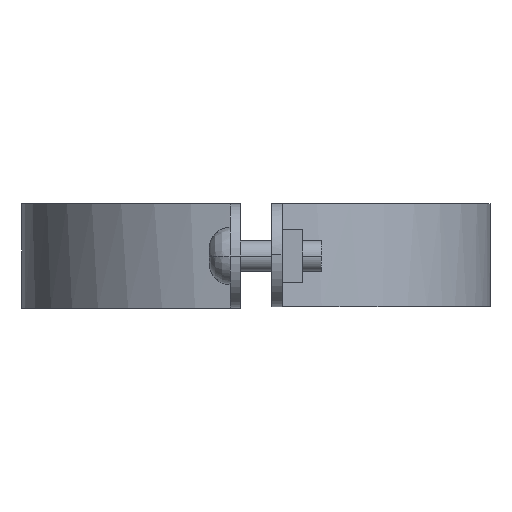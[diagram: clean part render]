
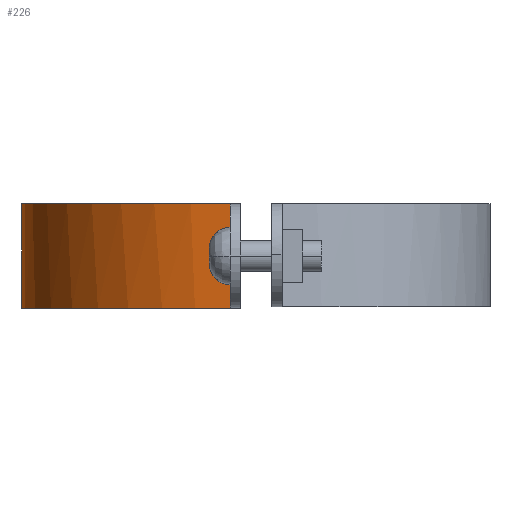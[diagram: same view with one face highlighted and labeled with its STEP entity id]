
A CAD part, left-side view. The second image highlights one B-rep face of the part: STEP entity #226.
In plain terms, the highlighted free-form (B-spline) face has degree [3, 1] with [4, 2] control points.
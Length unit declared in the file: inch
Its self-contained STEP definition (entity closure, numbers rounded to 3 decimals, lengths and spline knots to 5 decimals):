
#226=ADVANCED_FACE('',(#474),#475,.T.);
#474=FACE_OUTER_BOUND('',#1053,.T.);
#475=B_SPLINE_SURFACE_WITH_KNOTS('',3,1,((#1054,#1055),(#1056,#1057),(#1058,#1059),(#1060,#1061)),.UNSPECIFIED.,.F.,.F.,.F.,(4,4),(2,2),(0.0,1.0),(0.0,1.25),.UNSPECIFIED.);
#1053=EDGE_LOOP('',(#1646,#1647,#1648,#1649));
#1054=CARTESIAN_POINT('',(2.84537,5.5907,0.0));
#1055=CARTESIAN_POINT('',(2.84537,5.5907,1.25));
#1056=CARTESIAN_POINT('',(1.41417,5.5907,0.0));
#1057=CARTESIAN_POINT('',(1.41417,5.5907,1.25));
#1058=CARTESIAN_POINT('',(0.21159,4.5151,0.0));
#1059=CARTESIAN_POINT('',(0.21159,4.5151,1.25));
#1060=CARTESIAN_POINT('',(0.05258,3.09273,0.0));
#1061=CARTESIAN_POINT('',(0.05258,3.09273,1.25));
#1646=ORIENTED_EDGE('',*,*,#2138,.T.);
#1647=ORIENTED_EDGE('',*,*,#2172,.T.);
#1648=ORIENTED_EDGE('',*,*,#2173,.T.);
#1649=ORIENTED_EDGE('',*,*,#2174,.F.);
#2138=EDGE_CURVE('',#2460,#2469,#2471,.T.);
#2172=EDGE_CURVE('',#2469,#2518,#2519,.T.);
#2173=EDGE_CURVE('',#2518,#2520,#2521,.T.);
#2174=EDGE_CURVE('',#2460,#2520,#2522,.T.);
#2460=VERTEX_POINT('',#2999);
#2469=VERTEX_POINT('',#3015);
#2471=B_SPLINE_CURVE_WITH_KNOTS('',3,(#3018,#3019,#3020,#3021),.UNSPECIFIED.,.F.,.F.,(4,4),(0.0,1.0),.UNSPECIFIED.);
#2518=VERTEX_POINT('',#3129);
#2519=LINE('',#3130,#3131);
#2520=VERTEX_POINT('',#3132);
#2521=B_SPLINE_CURVE_WITH_KNOTS('',3,(#3133,#3134,#3135,#3136),.UNSPECIFIED.,.F.,.F.,(4,4),(-1.0,-0.0),.UNSPECIFIED.);
#2522=LINE('',#3137,#3138);
#2999=CARTESIAN_POINT('',(2.84537,5.5907,0.00011));
#3015=CARTESIAN_POINT('',(0.05258,3.09273,0.00011));
#3018=CARTESIAN_POINT('',(2.84537,5.5907,0.00011));
#3019=CARTESIAN_POINT('',(1.41417,5.5907,0.00011));
#3020=CARTESIAN_POINT('',(0.21159,4.5151,0.00011));
#3021=CARTESIAN_POINT('',(0.05258,3.09273,0.00011));
#3129=CARTESIAN_POINT('',(0.05258,3.09273,1.24992));
#3130=CARTESIAN_POINT('',(0.05258,3.09273,0.0));
#3131=VECTOR('',#3515,1.0);
#3132=CARTESIAN_POINT('',(2.84537,5.5907,1.24992));
#3133=CARTESIAN_POINT('',(0.05258,3.09273,1.24992));
#3134=CARTESIAN_POINT('',(0.21159,4.5151,1.24992));
#3135=CARTESIAN_POINT('',(1.41417,5.5907,1.24992));
#3136=CARTESIAN_POINT('',(2.84537,5.5907,1.24992));
#3137=CARTESIAN_POINT('',(2.84537,5.5907,0.0));
#3138=VECTOR('',#3516,1.0);
#3515=DIRECTION('',(0.0,0.0,1.0));
#3516=DIRECTION('',(0.0,0.0,1.0));
